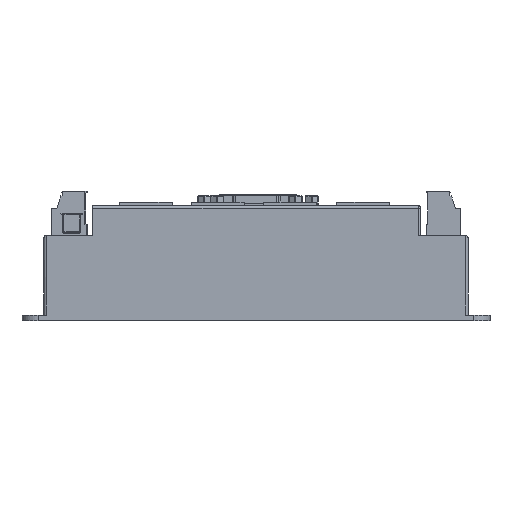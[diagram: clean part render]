
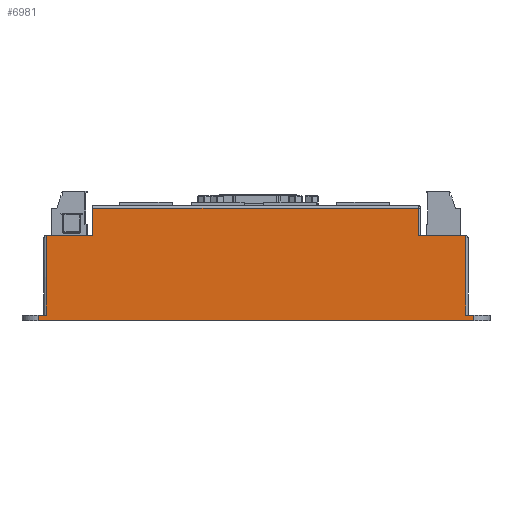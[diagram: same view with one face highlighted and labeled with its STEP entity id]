
A CAD part, left-side view. The second image highlights one B-rep face of the part: STEP entity #6981.
In plain terms, the highlighted planar face has unit normal (-1, 0, 0).
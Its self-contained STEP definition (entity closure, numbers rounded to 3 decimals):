
#3395=B_SPLINE_CURVE_WITH_KNOTS('',3,(#44065,#44066,#44067,#44068,#44069,
#44070,#44071,#44072,#44073,#44074),.UNSPECIFIED.,.F.,.F.,(4,3,3,4),(0.,
0.115,0.885,1.),.UNSPECIFIED.);
#3396=B_SPLINE_CURVE_WITH_KNOTS('',3,(#44082,#44083,#44084,#44085,#44086,
#44087,#44088,#44089,#44090,#44091),.UNSPECIFIED.,.F.,.F.,(4,3,3,4),(0.,
0.115,0.885,1.),.UNSPECIFIED.);
#4112=FACE_OUTER_BOUND('',#11846,.T.);
#6981=ADVANCED_FACE('',(#4112),#8885,.T.);
#8885=PLANE('',#30754);
#11846=EDGE_LOOP('',(#15197,#15198,#15199,#15200,#15201,#15202,#15203,#15204,
#15205,#15206,#15207,#15208));
#15197=ORIENTED_EDGE('',*,*,#24396,.F.);
#15198=ORIENTED_EDGE('',*,*,#24398,.T.);
#15199=ORIENTED_EDGE('',*,*,#24399,.T.);
#15200=ORIENTED_EDGE('',*,*,#24334,.F.);
#15201=ORIENTED_EDGE('',*,*,#24400,.T.);
#15202=ORIENTED_EDGE('',*,*,#24401,.F.);
#15203=ORIENTED_EDGE('',*,*,#24402,.T.);
#15204=ORIENTED_EDGE('',*,*,#24403,.T.);
#15205=ORIENTED_EDGE('',*,*,#24404,.F.);
#15206=ORIENTED_EDGE('',*,*,#24405,.F.);
#15207=ORIENTED_EDGE('',*,*,#24406,.T.);
#15208=ORIENTED_EDGE('',*,*,#24407,.F.);
#21839=VERTEX_POINT('',#43773);
#21840=VERTEX_POINT('',#43775);
#21885=VERTEX_POINT('',#44055);
#21886=VERTEX_POINT('',#44057);
#21887=VERTEX_POINT('',#44061);
#21888=VERTEX_POINT('',#44064);
#21889=VERTEX_POINT('',#44075);
#21890=VERTEX_POINT('',#44077);
#21891=VERTEX_POINT('',#44079);
#21892=VERTEX_POINT('',#44081);
#21893=VERTEX_POINT('',#44092);
#21894=VERTEX_POINT('',#44094);
#24334=EDGE_CURVE('',#21839,#21840,#27659,.T.);
#24396=EDGE_CURVE('',#21885,#21886,#27700,.T.);
#24398=EDGE_CURVE('',#21885,#21887,#27701,.T.);
#24399=EDGE_CURVE('',#21887,#21840,#27702,.T.);
#24400=EDGE_CURVE('',#21839,#21888,#27703,.T.);
#24401=EDGE_CURVE('',#21889,#21888,#3395,.T.);
#24402=EDGE_CURVE('',#21889,#21890,#27704,.T.);
#24403=EDGE_CURVE('',#21890,#21891,#27705,.T.);
#24404=EDGE_CURVE('',#21892,#21891,#27706,.T.);
#24405=EDGE_CURVE('',#21893,#21892,#3396,.T.);
#24406=EDGE_CURVE('',#21893,#21894,#27707,.T.);
#24407=EDGE_CURVE('',#21886,#21894,#27708,.T.);
#27659=LINE('',#43774,#29182);
#27700=LINE('',#44056,#29226);
#27701=LINE('',#44060,#29227);
#27702=LINE('',#44062,#29228);
#27703=LINE('',#44063,#29229);
#27704=LINE('',#44076,#29230);
#27705=LINE('',#44078,#29231);
#27706=LINE('',#44080,#29232);
#27707=LINE('',#44093,#29233);
#27708=LINE('',#44095,#29234);
#29182=VECTOR('',#34359,1.);
#29226=VECTOR('',#34455,1.);
#29227=VECTOR('',#34460,1.);
#29228=VECTOR('',#34461,1.);
#29229=VECTOR('',#34462,1.);
#29230=VECTOR('',#34463,1.);
#29231=VECTOR('',#34464,1.);
#29232=VECTOR('',#34465,1.);
#29233=VECTOR('',#34466,1.);
#29234=VECTOR('',#34467,1.);
#30754=AXIS2_PLACEMENT_3D('',#44096,#34468,#34469);
#34359=DIRECTION('',(0.,-1.,0.));
#34455=DIRECTION('',(0.,0.,1.));
#34460=DIRECTION('',(0.,-1.,0.));
#34461=DIRECTION('',(0.,0.,1.));
#34462=DIRECTION('',(0.,0.,1.));
#34463=DIRECTION('',(0.,0.,1.));
#34464=DIRECTION('',(0.,1.,0.));
#34465=DIRECTION('',(0.,0.,1.));
#34466=DIRECTION('',(0.,0.,-1.));
#34467=DIRECTION('',(0.,-1.,0.));
#34468=DIRECTION('',(-1.,0.,0.));
#34469=DIRECTION('',(0.,1.,0.));
#43773=CARTESIAN_POINT('',(868.066,236.428,6.8));
#43774=CARTESIAN_POINT('',(868.066,300.553,6.8));
#43775=CARTESIAN_POINT('',(868.066,233.928,6.8));
#44055=CARTESIAN_POINT('',(868.066,367.678,5.));
#44056=CARTESIAN_POINT('',(868.066,367.678,0.9));
#44057=CARTESIAN_POINT('',(868.066,367.678,6.8));
#44060=CARTESIAN_POINT('',(868.066,300.553,5.));
#44061=CARTESIAN_POINT('',(868.066,233.928,5.));
#44062=CARTESIAN_POINT('',(868.066,233.928,0.));
#44063=CARTESIAN_POINT('',(868.066,236.428,1.8));
#44064=CARTESIAN_POINT('',(868.066,236.428,31.3));
#44065=CARTESIAN_POINT('',(868.066,378.716,31.3));
#44066=CARTESIAN_POINT('',(868.066,372.703,31.3));
#44067=CARTESIAN_POINT('',(868.066,366.691,31.3));
#44068=CARTESIAN_POINT('',(868.066,360.678,31.3));
#44069=CARTESIAN_POINT('',(868.066,320.595,31.3));
#44070=CARTESIAN_POINT('',(868.066,280.512,31.3));
#44071=CARTESIAN_POINT('',(868.066,240.428,31.3));
#44072=CARTESIAN_POINT('',(868.066,234.416,31.3));
#44073=CARTESIAN_POINT('',(868.066,228.403,31.3));
#44074=CARTESIAN_POINT('',(868.066,222.391,31.3));
#44075=CARTESIAN_POINT('',(868.066,250.928,31.3));
#44076=CARTESIAN_POINT('',(868.066,250.928,32.4));
#44077=CARTESIAN_POINT('',(868.066,250.928,39.65));
#44078=CARTESIAN_POINT('',(868.066,300.928,39.65));
#44079=CARTESIAN_POINT('',(868.066,350.928,39.65));
#44080=CARTESIAN_POINT('',(868.066,350.928,32.4));
#44081=CARTESIAN_POINT('',(868.066,350.928,31.3));
#44082=CARTESIAN_POINT('',(868.066,378.716,31.3));
#44083=CARTESIAN_POINT('',(868.066,372.703,31.3));
#44084=CARTESIAN_POINT('',(868.066,366.691,31.3));
#44085=CARTESIAN_POINT('',(868.066,360.678,31.3));
#44086=CARTESIAN_POINT('',(868.066,320.595,31.3));
#44087=CARTESIAN_POINT('',(868.066,280.512,31.3));
#44088=CARTESIAN_POINT('',(868.066,240.428,31.3));
#44089=CARTESIAN_POINT('',(868.066,234.416,31.3));
#44090=CARTESIAN_POINT('',(868.066,228.403,31.3));
#44091=CARTESIAN_POINT('',(868.066,222.391,31.3));
#44092=CARTESIAN_POINT('',(868.066,365.178,31.3));
#44093=CARTESIAN_POINT('',(868.066,365.178,1.8));
#44094=CARTESIAN_POINT('',(868.066,365.178,6.8));
#44095=CARTESIAN_POINT('',(868.066,300.553,6.8));
#44096=CARTESIAN_POINT('',(868.066,363.178,0.));
